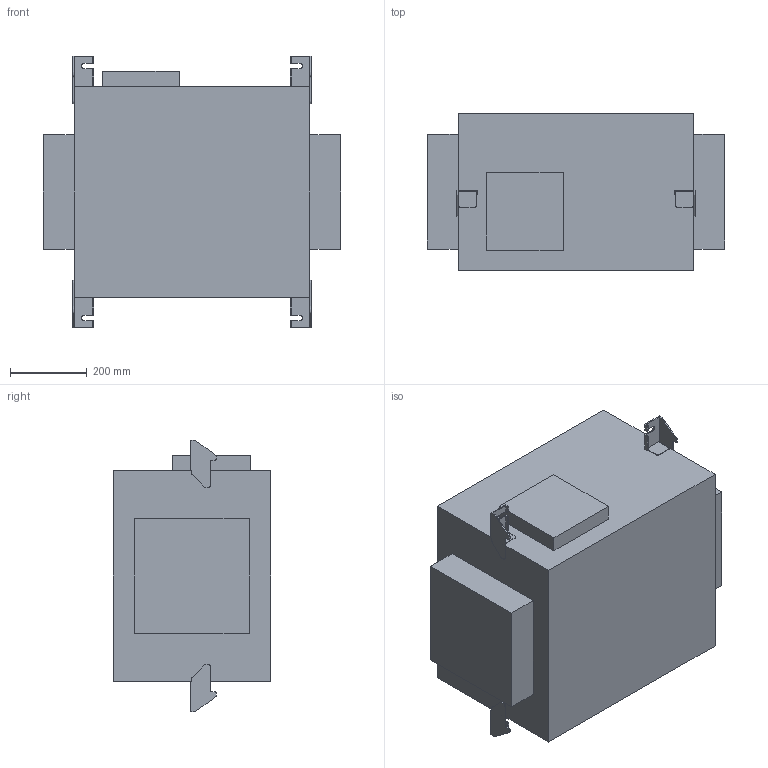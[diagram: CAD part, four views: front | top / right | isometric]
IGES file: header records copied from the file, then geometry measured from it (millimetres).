
Start section: SolidWorks IGES file using analytic representation for surfaces
Bounding box: 772 x 409 x 705.6 mm (x, y, z)
Surface area: 1908303.1 mm2 (no closed solid volume)
Topology: 0 solids, 0 shells, 181 faces, 1712 edges, 1712 vertices
Faces by surface type: bspline 125, revolution 56
